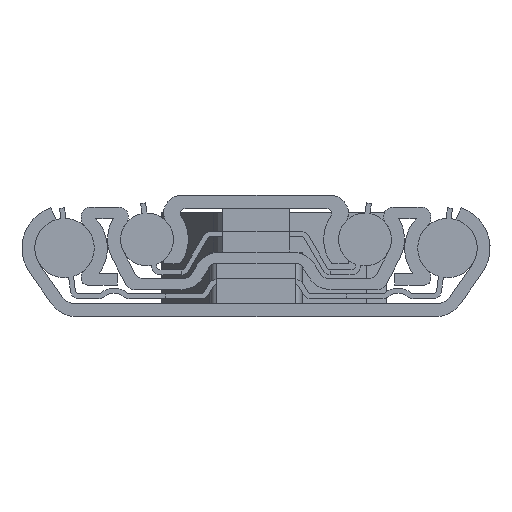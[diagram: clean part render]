
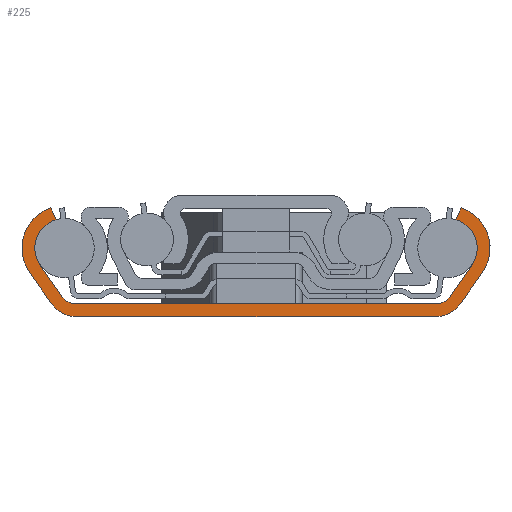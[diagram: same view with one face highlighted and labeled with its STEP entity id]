
A CAD part, left-side view. The second image highlights one B-rep face of the part: STEP entity #225.
In plain terms, the highlighted planar face has unit normal (-1, 0, 0).
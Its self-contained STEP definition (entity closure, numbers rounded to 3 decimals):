
#225 = ADVANCED_FACE( '', ( #561 ), #562, .F. );
#561 = FACE_OUTER_BOUND( '', #1211, .T. );
#562 = PLANE( '', #1212 );
#1211 = EDGE_LOOP( '', ( #1985, #1986, #1987, #1988, #1989, #1990, #1991, #1992, #1993, #1994, #1995, #1996, #1997, #1998, #1999, #2000 ) );
#1212 = AXIS2_PLACEMENT_3D( '', #2001, #2002, #2003 );
#1985 = ORIENTED_EDGE( '', *, *, #4529, .F. );
#1986 = ORIENTED_EDGE( '', *, *, #4538, .T. );
#1987 = ORIENTED_EDGE( '', *, *, #4535, .F. );
#1988 = ORIENTED_EDGE( '', *, *, #4532, .T. );
#1989 = ORIENTED_EDGE( '', *, *, #4480, .F. );
#1990 = ORIENTED_EDGE( '', *, *, #4500, .T. );
#1991 = ORIENTED_EDGE( '', *, *, #4503, .F. );
#1992 = ORIENTED_EDGE( '', *, *, #4506, .T. );
#1993 = ORIENTED_EDGE( '', *, *, #4509, .F. );
#1994 = ORIENTED_EDGE( '', *, *, #4512, .F. );
#1995 = ORIENTED_EDGE( '', *, *, #4515, .F. );
#1996 = ORIENTED_EDGE( '', *, *, #4518, .F. );
#1997 = ORIENTED_EDGE( '', *, *, #4493, .F. );
#1998 = ORIENTED_EDGE( '', *, *, #4520, .F. );
#1999 = ORIENTED_EDGE( '', *, *, #4523, .F. );
#2000 = ORIENTED_EDGE( '', *, *, #4526, .F. );
#2001 = CARTESIAN_POINT( '', ( 0., -29., 10.4 ) );
#2002 = DIRECTION( '', ( 1., 0., 0. ) );
#2003 = DIRECTION( '', ( 0., 0., -1. ) );
#4480 = EDGE_CURVE( '', #5377, #5378, #5379, .T. );
#4493 = EDGE_CURVE( '', #5401, #5402, #5403, .T. );
#4500 = EDGE_CURVE( '', #5377, #5414, #5415, .T. );
#4503 = EDGE_CURVE( '', #5419, #5414, #5420, .T. );
#4506 = EDGE_CURVE( '', #5419, #5424, #5425, .T. );
#4509 = EDGE_CURVE( '', #5429, #5424, #5430, .T. );
#4512 = EDGE_CURVE( '', #5434, #5429, #5435, .T. );
#4515 = EDGE_CURVE( '', #5439, #5434, #5440, .T. );
#4518 = EDGE_CURVE( '', #5402, #5439, #5444, .T. );
#4520 = EDGE_CURVE( '', #5446, #5401, #5447, .T. );
#4523 = EDGE_CURVE( '', #5451, #5446, #5452, .T. );
#4526 = EDGE_CURVE( '', #5456, #5451, #5457, .T. );
#4529 = EDGE_CURVE( '', #5461, #5456, #5462, .T. );
#4532 = EDGE_CURVE( '', #5466, #5378, #5467, .T. );
#4535 = EDGE_CURVE( '', #5466, #5471, #5472, .T. );
#4538 = EDGE_CURVE( '', #5461, #5471, #5476, .T. );
#5377 = VERTEX_POINT( '', #6843 );
#5378 = VERTEX_POINT( '', #6844 );
#5379 = LINE( '', #6845, #6846 );
#5401 = VERTEX_POINT( '', #6876 );
#5402 = VERTEX_POINT( '', #6877 );
#5403 = LINE( '', #6878, #6879 );
#5414 = VERTEX_POINT( '', #6896 );
#5415 = CIRCLE( '', #6897, 2.25 );
#5419 = VERTEX_POINT( '', #6902 );
#5420 = LINE( '', #6903, #6904 );
#5424 = VERTEX_POINT( '', #6910 );
#5425 = CIRCLE( '', #6911, 4.5 );
#5429 = VERTEX_POINT( '', #6916 );
#5430 = LINE( '', #6917, #6918 );
#5434 = VERTEX_POINT( '', #6924 );
#5435 = CIRCLE( '', #6925, 6.45 );
#5439 = VERTEX_POINT( '', #6930 );
#5440 = LINE( '', #6931, #6932 );
#5444 = CIRCLE( '', #6938, 4.75 );
#5446 = VERTEX_POINT( '', #6940 );
#5447 = CIRCLE( '', #6941, 4.75 );
#5451 = VERTEX_POINT( '', #6946 );
#5452 = LINE( '', #6947, #6948 );
#5456 = VERTEX_POINT( '', #6954 );
#5457 = CIRCLE( '', #6955, 6.45 );
#5461 = VERTEX_POINT( '', #6960 );
#5462 = LINE( '', #6961, #6962 );
#5466 = VERTEX_POINT( '', #6968 );
#5467 = CIRCLE( '', #6969, 2.25 );
#5471 = VERTEX_POINT( '', #6974 );
#5472 = LINE( '', #6975, #6976 );
#5476 = CIRCLE( '', #6982, 4.5 );
#6843 = CARTESIAN_POINT( '', ( 0., 27.44, 2. ) );
#6844 = CARTESIAN_POINT( '', ( 0., -27.44, 2. ) );
#6845 = CARTESIAN_POINT( '', ( 0., 27.44, 2. ) );
#6846 = VECTOR( '', #8861, 1000. );
#6876 = CARTESIAN_POINT( '', ( 0., -27.119, 0. ) );
#6877 = CARTESIAN_POINT( '', ( 0., 27.119, 0. ) );
#6878 = CARTESIAN_POINT( '', ( 0., -27.119, 0. ) );
#6879 = VECTOR( '', #8882, 1000. );
#6896 = CARTESIAN_POINT( '', ( 0., 29.284, 2.959 ) );
#6897 = AXIS2_PLACEMENT_3D( '', #8889, #8890, #8891 );
#6902 = CARTESIAN_POINT( '', ( 0., 32.686, 7.819 ) );
#6903 = CARTESIAN_POINT( '', ( 0., 32.686, 7.819 ) );
#6904 = VECTOR( '', #8896, 1000. );
#6910 = CARTESIAN_POINT( '', ( 0., 30.265, 14.719 ) );
#6911 = AXIS2_PLACEMENT_3D( '', #8899, #8900, #8901 );
#6916 = CARTESIAN_POINT( '', ( 0., 31.096, 16.5 ) );
#6917 = CARTESIAN_POINT( '', ( 0., 31.096, 16.5 ) );
#6918 = VECTOR( '', #8906, 1000. );
#6924 = CARTESIAN_POINT( '', ( 0., 34.284, 6.7 ) );
#6925 = AXIS2_PLACEMENT_3D( '', #8909, #8910, #8911 );
#6930 = CARTESIAN_POINT( '', ( 0., 31.01, 2.026 ) );
#6931 = CARTESIAN_POINT( '', ( 0., 31.01, 2.026 ) );
#6932 = VECTOR( '', #8916, 1000. );
#6938 = AXIS2_PLACEMENT_3D( '', #8919, #8920, #8921 );
#6940 = CARTESIAN_POINT( '', ( 0., -31.01, 2.026 ) );
#6941 = AXIS2_PLACEMENT_3D( '', #8925, #8926, #8927 );
#6946 = CARTESIAN_POINT( '', ( 0., -34.284, 6.7 ) );
#6947 = CARTESIAN_POINT( '', ( 0., -34.284, 6.7 ) );
#6948 = VECTOR( '', #8932, 1000. );
#6954 = CARTESIAN_POINT( '', ( 0., -31.096, 16.5 ) );
#6955 = AXIS2_PLACEMENT_3D( '', #8935, #8936, #8937 );
#6960 = CARTESIAN_POINT( '', ( 0., -30.265, 14.719 ) );
#6961 = CARTESIAN_POINT( '', ( 0., -30.265, 14.719 ) );
#6962 = VECTOR( '', #8942, 1000. );
#6968 = CARTESIAN_POINT( '', ( 0., -29.284, 2.959 ) );
#6969 = AXIS2_PLACEMENT_3D( '', #8945, #8946, #8947 );
#6974 = CARTESIAN_POINT( '', ( 0., -32.686, 7.819 ) );
#6975 = CARTESIAN_POINT( '', ( 0., -29.284, 2.959 ) );
#6976 = VECTOR( '', #8952, 1000. );
#6982 = AXIS2_PLACEMENT_3D( '', #8955, #8956, #8957 );
#8861 = DIRECTION( '', ( 0., -1., 0. ) );
#8882 = DIRECTION( '', ( 0., 1., 0. ) );
#8889 = CARTESIAN_POINT( '', ( 0., 27.44, 4.25 ) );
#8890 = DIRECTION( '', ( 1., 0., 0. ) );
#8891 = DIRECTION( '', ( 0., 0., -1. ) );
#8896 = DIRECTION( '', ( 0., -0.574, -0.819 ) );
#8899 = CARTESIAN_POINT( '', ( 0., 29., 10.4 ) );
#8900 = DIRECTION( '', ( 1., 0., 0. ) );
#8901 = DIRECTION( '', ( 0., 0., -1. ) );
#8906 = DIRECTION( '', ( 0., -0.423, -0.906 ) );
#8909 = CARTESIAN_POINT( '', ( 0., 29., 10.4 ) );
#8910 = DIRECTION( '', ( 1., 0., 0. ) );
#8911 = DIRECTION( '', ( 0., 0., -1. ) );
#8916 = DIRECTION( '', ( 0., 0.574, 0.819 ) );
#8919 = CARTESIAN_POINT( '', ( 0., 27.119, 4.75 ) );
#8920 = DIRECTION( '', ( 1., 0., 0. ) );
#8921 = DIRECTION( '', ( 0., 0., -1. ) );
#8925 = CARTESIAN_POINT( '', ( 0., -27.119, 4.75 ) );
#8926 = DIRECTION( '', ( 1., 0., 0. ) );
#8927 = DIRECTION( '', ( 0., 0., -1. ) );
#8932 = DIRECTION( '', ( 0., 0.574, -0.819 ) );
#8935 = CARTESIAN_POINT( '', ( 0., -29., 10.4 ) );
#8936 = DIRECTION( '', ( 1., 0., 0. ) );
#8937 = DIRECTION( '', ( 0., 0., -1. ) );
#8942 = DIRECTION( '', ( 0., -0.423, 0.906 ) );
#8945 = CARTESIAN_POINT( '', ( 0., -27.44, 4.25 ) );
#8946 = DIRECTION( '', ( 1., 0., 0. ) );
#8947 = DIRECTION( '', ( 0., 0., -1. ) );
#8952 = DIRECTION( '', ( 0., -0.574, 0.819 ) );
#8955 = CARTESIAN_POINT( '', ( 0., -29., 10.4 ) );
#8956 = DIRECTION( '', ( 1., 0., 0. ) );
#8957 = DIRECTION( '', ( 0., 0., -1. ) );
